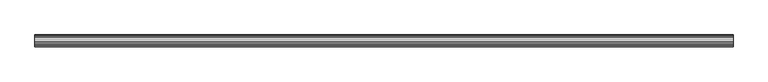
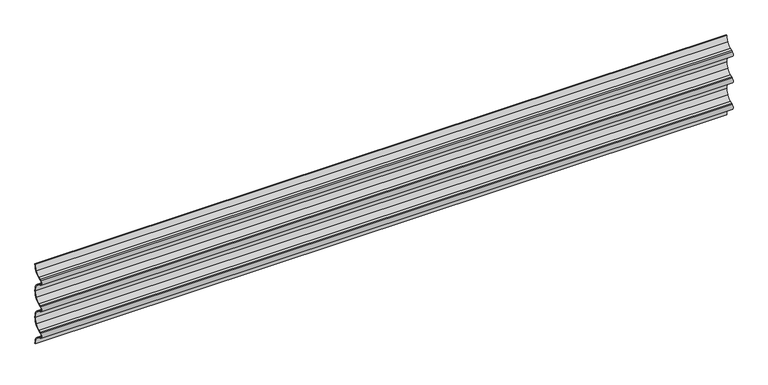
"""IFC4 building model written with IfcOpenShell, lengths in millimetres: plate geometry, Regolare Horizontal 267 : Regolare Horizontal 267."""

from ifc_helpers import new_model, si_unit, point, frame, frame_2d, origin, place, context, project, spatial, polyline, circle_curve, trimmed, segment, composite_curve, outline, extrude, source, transform, mapped, element, save


def plate_46ab9c88(model_context):
    return source(origin(), model_context, "Body", "SweptSolid", [
        extrude(outline(composite_curve([segment(trimmed(circle_curve(frame_2d((-38.4503244, 267.1544672)), 37.4503244), [point((-6.5021495, 247.6137171))], [point((-1.0, 267.1544672))], True, "CARTESIAN"), True, "CONTINUOUS"), segment(polyline([(-1.0, 267.1544672), (0.0, 267.1544672)]), True, "CONTINUOUS"), segment(trimmed(circle_curve(frame_2d((-38.4503244, 267.1544672)), 38.4503244), [point((0.0, 267.1544672))], [point((-5.6490681, 247.0919392))], False, "CARTESIAN"), True, "CONTINUOUS"), segment(trimmed(circle_curve(frame_2d((-32.6206681, 263.588822)), 31.6166783), [point((-5.6490681, 247.0919392))], [point((-20.878867, 234.2333378))], False, "CARTESIAN"), True, "CONTINUOUS"), segment(polyline([(-20.878867, 234.2333378), (-28.0423924, 231.3641161), (-31.4771017, 229.7177623)]), True, "CONTINUOUS"), segment(trimmed(circle_curve(frame_2d((-28.0791236, 222.6287227)), 7.8613445), [point((-31.4771017, 229.7177623))], [point((-31.4771017, 215.5396831))], True, "CARTESIAN"), True, "CONTINUOUS"), segment(polyline([(-31.4771017, 215.5396831), (-28.0423924, 213.8933293), (-20.878867, 211.0241076)]), True, "CONTINUOUS"), segment(trimmed(circle_curve(frame_2d((-32.6206681, 181.6686234)), 31.6166783), [point((-20.878867, 211.0241076))], [point((-5.6490681, 198.1655062))], False, "CARTESIAN"), True, "CONTINUOUS"), segment(trimmed(circle_curve(frame_2d((-38.4503244, 178.1029782)), 38.4503244), [point((-5.6490681, 198.1655062))], [point((0.0, 178.1029782))], False, "CARTESIAN"), True, "CONTINUOUS"), segment(trimmed(circle_curve(frame_2d((-38.4503244, 178.1029782)), 38.4503244), [point((0.0, 178.1029782))], [point((-5.6490681, 158.0404502))], False, "CARTESIAN"), True, "CONTINUOUS"), segment(trimmed(circle_curve(frame_2d((-32.6206681, 174.5373329)), 31.6166783), [point((-5.6490681, 158.0404502))], [point((-20.878867, 145.1818487))], False, "CARTESIAN"), True, "CONTINUOUS"), segment(polyline([(-20.878867, 145.1818487), (-28.0423924, 142.312627), (-31.4771017, 140.6662733)]), True, "CONTINUOUS"), segment(trimmed(circle_curve(frame_2d((-28.0791236, 133.5772336)), 7.8613445), [point((-31.4771017, 140.6662733))], [point((-31.4771017, 126.488194))], True, "CARTESIAN"), True, "CONTINUOUS"), segment(polyline([(-31.4771017, 126.488194), (-28.0423924, 124.8418403), (-20.878867, 121.9726185)]), True, "CONTINUOUS"), segment(trimmed(circle_curve(frame_2d((-32.6206681, 92.6171343)), 31.6166783), [point((-20.878867, 121.9726185))], [point((-5.6490681, 109.1140171))], False, "CARTESIAN"), True, "CONTINUOUS"), segment(trimmed(circle_curve(frame_2d((-38.4503244, 89.0514891)), 38.4503244), [point((-5.6490681, 109.1140171))], [point((0.0, 89.0514891))], False, "CARTESIAN"), True, "CONTINUOUS"), segment(trimmed(circle_curve(frame_2d((-38.4503244, 89.0514891)), 38.4503244), [point((0.0, 89.0514891))], [point((-5.6490681, 68.9889611))], False, "CARTESIAN"), True, "CONTINUOUS"), segment(trimmed(circle_curve(frame_2d((-32.6206681, 85.4858438)), 31.6166783), [point((-5.6490681, 68.9889611))], [point((-20.878867, 56.1303596))], False, "CARTESIAN"), True, "CONTINUOUS"), segment(polyline([(-20.878867, 56.1303596), (-28.0423924, 53.2611379), (-31.4771017, 51.6147842)]), True, "CONTINUOUS"), segment(trimmed(circle_curve(frame_2d((-28.0791236, 44.5257445)), 7.8613445), [point((-31.4771017, 51.6147842))], [point((-31.4771017, 37.4367049))], True, "CARTESIAN"), True, "CONTINUOUS"), segment(polyline([(-31.4771017, 37.4367049), (-28.0423924, 35.7903512), (-20.878867, 32.9211295)]), True, "CONTINUOUS"), segment(trimmed(circle_curve(frame_2d((-32.6206681, 3.5656452)), 31.6166783), [point((-20.878867, 32.9211295))], [point((-5.6490681, 20.062528))], False, "CARTESIAN"), True, "CONTINUOUS"), segment(trimmed(circle_curve(frame_2d((-38.4503244, 0.0)), 38.4503244), [point((-5.6490681, 20.062528))], [point((0.0, 0.0))], False, "CARTESIAN"), True, "CONTINUOUS"), segment(polyline([(0.0, 0.0), (-1.0, 0.0)]), True, "CONTINUOUS"), segment(trimmed(circle_curve(frame_2d((-38.4503244, 0.0)), 37.4503244), [point((-1.0, 0.0))], [point((-6.5021495, 19.5407501))], True, "CARTESIAN"), True, "CONTINUOUS"), segment(trimmed(circle_curve(frame_2d((-32.6206681, 3.5656452)), 30.6166783), [point((-6.5021495, 19.5407501))], [point((-21.2504634, 31.9927351))], True, "CARTESIAN"), True, "CONTINUOUS"), segment(polyline([(-21.2504634, 31.9927351), (-28.4448583, 34.874321), (-31.9093405, 36.5349457)]), True, "CONTINUOUS"), segment(trimmed(circle_curve(frame_2d((-28.0791236, 44.5257445)), 8.8613445), [point((-31.9093405, 36.5349457))], [point((-31.9093405, 52.5165434))], False, "CARTESIAN"), True, "CONTINUOUS"), segment(polyline([(-31.9093405, 52.5165434), (-28.4448583, 54.1771681), (-21.2504634, 57.058754)]), True, "CONTINUOUS"), segment(trimmed(circle_curve(frame_2d((-32.6206681, 85.4858438)), 30.6166783), [point((-21.2504634, 57.058754))], [point((-6.5021495, 69.5107389))], True, "CARTESIAN"), True, "CONTINUOUS"), segment(trimmed(circle_curve(frame_2d((-38.4503244, 89.0514891)), 37.4503244), [point((-6.5021495, 69.5107389))], [point((-1.0, 89.0514891))], True, "CARTESIAN"), True, "CONTINUOUS"), segment(trimmed(circle_curve(frame_2d((-38.4503244, 89.0514891)), 37.4503244), [point((-1.0, 89.0514891))], [point((-6.5021495, 108.5922392))], True, "CARTESIAN"), True, "CONTINUOUS"), segment(trimmed(circle_curve(frame_2d((-32.6206681, 92.6171343)), 30.6166783), [point((-6.5021495, 108.5922392))], [point((-21.2504634, 121.0442242))], True, "CARTESIAN"), True, "CONTINUOUS"), segment(polyline([(-21.2504634, 121.0442242), (-28.4448583, 123.9258101), (-31.9093405, 125.5864348)]), True, "CONTINUOUS"), segment(trimmed(circle_curve(frame_2d((-28.0791236, 133.5772336)), 8.8613445), [point((-31.9093405, 125.5864348))], [point((-31.9093405, 141.5680324))], False, "CARTESIAN"), True, "CONTINUOUS"), segment(polyline([(-31.9093405, 141.5680324), (-28.4448583, 143.2286572), (-21.2504634, 146.1102431)]), True, "CONTINUOUS"), segment(trimmed(circle_curve(frame_2d((-32.6206681, 174.5373329)), 30.6166783), [point((-21.2504634, 146.1102431))], [point((-6.5021495, 158.562228))], True, "CARTESIAN"), True, "CONTINUOUS"), segment(trimmed(circle_curve(frame_2d((-38.4503244, 178.1029782)), 37.4503244), [point((-6.5021495, 158.562228))], [point((-1.0, 178.1029782))], True, "CARTESIAN"), True, "CONTINUOUS"), segment(trimmed(circle_curve(frame_2d((-38.4503244, 178.1029782)), 37.4503244), [point((-1.0, 178.1029782))], [point((-6.5021495, 197.6437283))], True, "CARTESIAN"), True, "CONTINUOUS"), segment(trimmed(circle_curve(frame_2d((-32.6206681, 181.6686234)), 30.6166783), [point((-6.5021495, 197.6437283))], [point((-21.2504634, 210.0957133))], True, "CARTESIAN"), True, "CONTINUOUS"), segment(polyline([(-21.2504634, 210.0957133), (-28.4448583, 212.9772992), (-31.9093405, 214.6379239)]), True, "CONTINUOUS"), segment(trimmed(circle_curve(frame_2d((-28.0791236, 222.6287227)), 8.8613445), [point((-31.9093405, 214.6379239))], [point((-31.9093405, 230.6195215))], False, "CARTESIAN"), True, "CONTINUOUS"), segment(polyline([(-31.9093405, 230.6195215), (-28.4448583, 232.2801463), (-21.2504634, 235.1617322)]), True, "CONTINUOUS"), segment(trimmed(circle_curve(frame_2d((-32.6206681, 263.588822)), 30.6166783), [point((-21.2504634, 235.1617322))], [point((-6.5021495, 247.6137171))], True, "CARTESIAN"), True, "CONTINUOUS")], self_intersect=False)), frame((-1100.0, 0.0, 0.0), z_axis=(1.0, 0.0, 0.0), x_axis=(0.0, 1.0, 0.0)), (0.0, 0.0, 1.0), 2200.0),
    ])


if __name__ == "__main__":
    model = new_model("IFC4")
    model_context = context("Model", 3, world=origin())
    ifc_project = project(units=[si_unit("LENGTHUNIT", "METRE", prefix="MILLI")], contexts=[model_context])
    site = spatial("IfcSite", under=ifc_project)
    building = spatial("IfcBuilding", under=site)
    placement = place(None, origin())
    plate_shape = plate_46ab9c88(model_context)
    element("IfcPlate", 1, ObjectType="Regolare Horizontal 267 : Regolare Horizontal 267", at=placement, inside=building, context=model_context, shape_type="MappedRepresentation", body=[
        mapped(plate_shape, transform((0.0, 0.0, 0.0), x_axis=(1.0, 0.0, 0.0), y_axis=(0.0, 1.0, 0.0), z_axis=(0.0, 0.0, 1.0))),
    ])
    save(model, "model.ifc")
